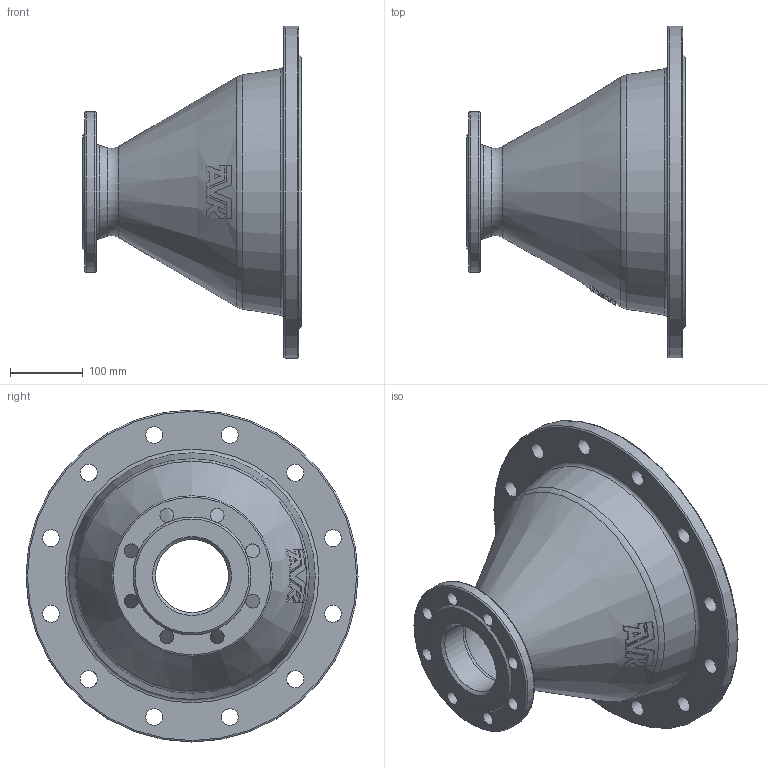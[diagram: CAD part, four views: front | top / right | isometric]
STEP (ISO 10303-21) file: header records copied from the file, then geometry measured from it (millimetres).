
FILE_DESCRIPTION (( 'STEP AP203' ), '1' );
FILE_NAME ('O_712_2210_DN300_DN100_0X_REV01.step', '2024-08-08T06:02:44', ( '' ), ( '' ), 'SwSTEP 2.0', 'SolidWorks 2022', '' );
FILE_SCHEMA (( 'CONFIG_CONTROL_DESIGN' ));
Length unit declared in the file: millimetre
Products named in the file (1): O_712_2210_DN300_DN100_0X_REV01
Bounding box: 300 x 455 x 455 mm (x, y, z)
Volume: 4426575.9 mm3; surface area: 693703.5 mm2
Topology: 1 solids, 1 shells, 89 faces, 284 edges, 185 vertices
Faces by surface type: plane 41, cylinder 26, cone 12, torus 10
Full cylindrical faces by diameter (mm): 19 x8, 23 x12, 100 x1, 220 x1, 300 x1, 455 x1
Entity records: 3188 total; most frequent: CARTESIAN_POINT 885, DIRECTION 453, ORIENTED_EDGE 434, EDGE_CURVE 217, AXIS2_PLACEMENT_3D 208, EDGE_LOOP 161, VERTEX_POINT 160, FACE_OUTER_BOUND 123
